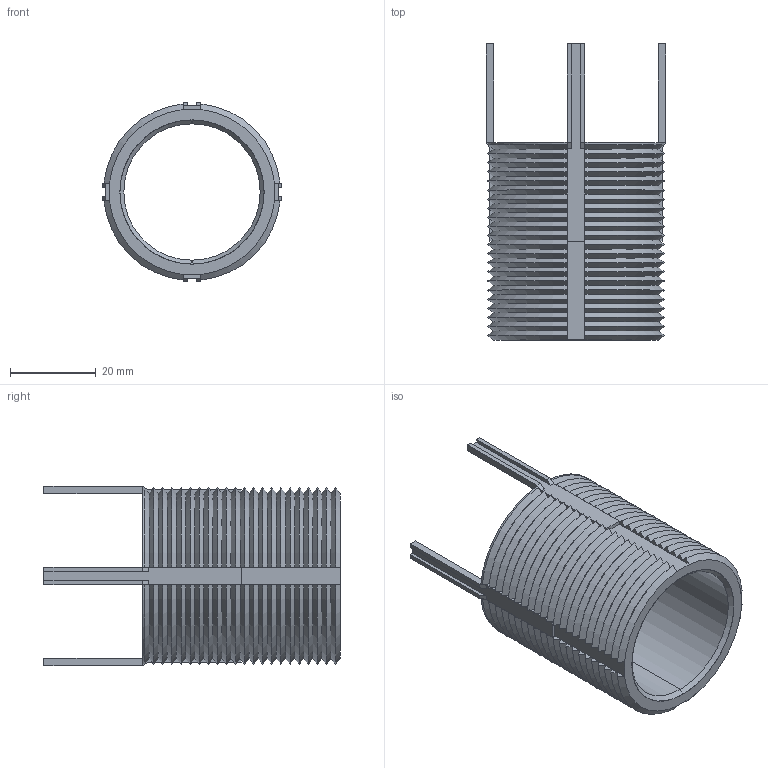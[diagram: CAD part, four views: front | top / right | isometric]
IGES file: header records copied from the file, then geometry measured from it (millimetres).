
Start section: SolidWorks IGES file using analytic representation for surfaces
Global section: file name: C:\Users\IanO\Desktop\TR1575\TR1575_v2_20230420_IGES\TR1575.65914.igs; native system: SolidWorks 2019; preprocessor: SolidWorks 2019; author: IanO; date: 230420.093304; units: inch
Bounding box: 41.8 x 68.96 x 41.8 mm (x, y, z)
Surface area: 16565.4 mm2 (no closed solid volume)
Topology: 0 solids, 0 shells, 412 faces, 1896 edges, 1896 vertices
Faces by surface type: bspline 230, revolution 182
